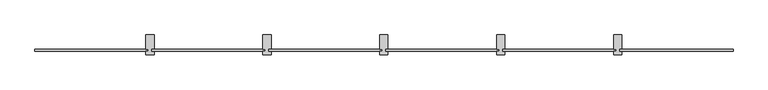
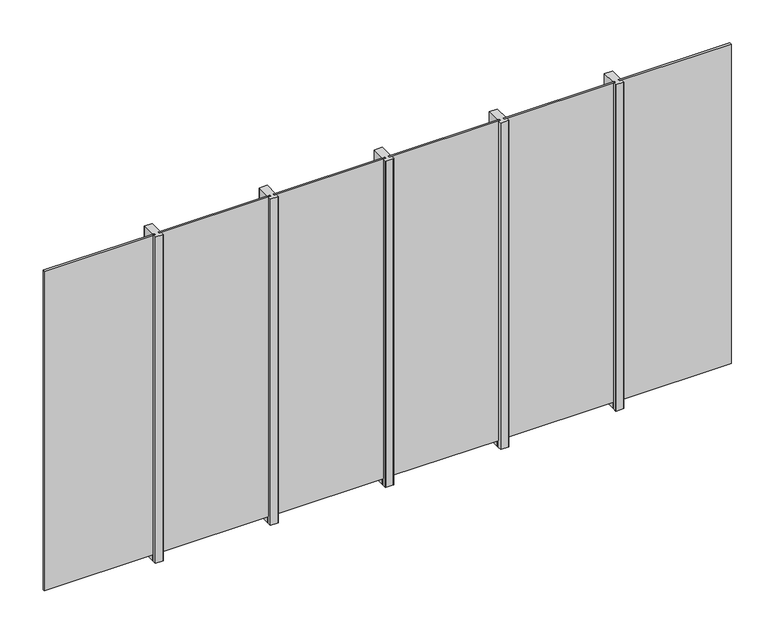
"""IFC4 building model written with IfcOpenShell, lengths in millimetres: railing geometry, TOP STEEL CHANNEL WELD_TOP MOUNT STRUC_GLASS_8'."""

from ifc_helpers import new_model, si_unit, point, frame, frame_2d, origin, origin_with_axes, place, context, project, spatial, polyline, circle_curve, trimmed, segment, composite_curve, outline, extrude, source, transform, mapped, element, save


def railing_8d1bc7e0(model_context):
    return source(origin(), model_context, "Body", "SweptSolid", [
        extrude(outline(polyline([(85584.7514492, -69435.5077536), (86372.1514492, -69435.5077536), (86372.1514492, -69448.2077536), (85584.7514492, -69448.2077536), (85584.7514492, -69435.5077536)])), frame((0.0, 0.0, 50.8), z_axis=(0.0, 0.0, 1.0), x_axis=(1.0, 0.0, 0.0)), (0.0, 0.0, 1.0), 2387.6),
        extrude(outline(composite_curve([segment(polyline([(85599.839796, -69435.5077536), (85584.7514492, -69435.5077536), (85584.7514492, -69448.2077536), (85599.839796, -69448.2077536), (85599.839796, -69473.1075966)]), True, "CONTINUOUS"), segment(trimmed(circle_curve(frame_2d((85599.339796, -69473.1075966)), 0.5), [point((85599.839796, -69473.1075966))], [point((85599.339796, -69473.6075966))], False, "CARTESIAN"), True, "CONTINUOUS"), segment(polyline([(85599.339796, -69473.6075966), (85543.189796, -69473.6075966)]), True, "CONTINUOUS"), segment(trimmed(circle_curve(frame_2d((85543.189796, -69473.1075966)), 0.5), [point((85543.189796, -69473.6075966))], [point((85542.689796, -69473.1075966))], False, "CARTESIAN"), True, "CONTINUOUS"), segment(polyline([(85542.689796, -69473.1075966), (85542.689796, -69448.2077536), (85559.3514492, -69448.2077536), (85559.3514492, -69435.5077536), (85542.689796, -69435.5077536), (85542.689796, -69336.4835966)]), True, "CONTINUOUS"), segment(trimmed(circle_curve(frame_2d((85543.189796, -69336.4835966)), 0.5), [point((85542.689796, -69336.4835966))], [point((85543.189796, -69335.9835966))], False, "CARTESIAN"), True, "CONTINUOUS"), segment(polyline([(85543.189796, -69335.9835966), (85599.339796, -69335.9835966)]), True, "CONTINUOUS"), segment(trimmed(circle_curve(frame_2d((85599.339796, -69336.4835966)), 0.5), [point((85599.339796, -69335.9835966))], [point((85599.839796, -69336.4835966))], False, "CARTESIAN"), True, "CONTINUOUS"), segment(polyline([(85599.839796, -69336.4835966), (85599.839796, -69435.5077536)]), True, "CONTINUOUS")], self_intersect=False)), origin_with_axes(), (0.0, 0.0, 1.0), 2438.4),
        extrude(outline(polyline([(84771.9514492, -69435.5077536), (85559.3514492, -69435.5077536), (85559.3514492, -69448.2077536), (84771.9514492, -69448.2077536), (84771.9514492, -69435.5077536)])), frame((0.0, 0.0, 50.8), z_axis=(0.0, 0.0, 1.0), x_axis=(1.0, 0.0, 0.0)), (0.0, 0.0, 1.0), 2387.6),
        extrude(outline(composite_curve([segment(polyline([(84787.039796, -69435.5077536), (84771.9514492, -69435.5077536), (84771.9514492, -69448.2077536), (84787.039796, -69448.2077536), (84787.039796, -69473.1075966)]), True, "CONTINUOUS"), segment(trimmed(circle_curve(frame_2d((84786.539796, -69473.1075966)), 0.5), [point((84787.039796, -69473.1075966))], [point((84786.539796, -69473.6075966))], False, "CARTESIAN"), True, "CONTINUOUS"), segment(polyline([(84786.539796, -69473.6075966), (84730.389796, -69473.6075966)]), True, "CONTINUOUS"), segment(trimmed(circle_curve(frame_2d((84730.389796, -69473.1075966)), 0.5), [point((84730.389796, -69473.6075966))], [point((84729.889796, -69473.1075966))], False, "CARTESIAN"), True, "CONTINUOUS"), segment(polyline([(84729.889796, -69473.1075966), (84729.889796, -69448.2077536), (84746.5514492, -69448.2077536), (84746.5514492, -69435.5077536), (84729.889796, -69435.5077536), (84729.889796, -69336.4835966)]), True, "CONTINUOUS"), segment(trimmed(circle_curve(frame_2d((84730.389796, -69336.4835966)), 0.5), [point((84729.889796, -69336.4835966))], [point((84730.389796, -69335.9835966))], False, "CARTESIAN"), True, "CONTINUOUS"), segment(polyline([(84730.389796, -69335.9835966), (84786.539796, -69335.9835966)]), True, "CONTINUOUS"), segment(trimmed(circle_curve(frame_2d((84786.539796, -69336.4835966)), 0.5), [point((84786.539796, -69335.9835966))], [point((84787.039796, -69336.4835966))], False, "CARTESIAN"), True, "CONTINUOUS"), segment(polyline([(84787.039796, -69336.4835966), (84787.039796, -69435.5077536)]), True, "CONTINUOUS")], self_intersect=False)), origin_with_axes(), (0.0, 0.0, 1.0), 2438.4),
        extrude(outline(polyline([(83959.1514492, -69435.5077536), (84746.5514492, -69435.5077536), (84746.5514492, -69448.2077536), (83959.1514492, -69448.2077536), (83959.1514492, -69435.5077536)])), frame((0.0, 0.0, 50.8), z_axis=(0.0, 0.0, 1.0), x_axis=(1.0, 0.0, 0.0)), (0.0, 0.0, 1.0), 2387.6),
        extrude(outline(composite_curve([segment(polyline([(83974.239796, -69435.5077536), (83959.1514492, -69435.5077536), (83959.1514492, -69448.2077536), (83974.239796, -69448.2077536), (83974.239796, -69473.1075966)]), True, "CONTINUOUS"), segment(trimmed(circle_curve(frame_2d((83973.739796, -69473.1075966)), 0.5), [point((83974.239796, -69473.1075966))], [point((83973.739796, -69473.6075966))], False, "CARTESIAN"), True, "CONTINUOUS"), segment(polyline([(83973.739796, -69473.6075966), (83917.589796, -69473.6075966)]), True, "CONTINUOUS"), segment(trimmed(circle_curve(frame_2d((83917.589796, -69473.1075966)), 0.5), [point((83917.589796, -69473.6075966))], [point((83917.089796, -69473.1075966))], False, "CARTESIAN"), True, "CONTINUOUS"), segment(polyline([(83917.089796, -69473.1075966), (83917.089796, -69448.2077536), (83933.7514492, -69448.2077536), (83933.7514492, -69435.5077536), (83917.089796, -69435.5077536), (83917.089796, -69336.4835966)]), True, "CONTINUOUS"), segment(trimmed(circle_curve(frame_2d((83917.589796, -69336.4835966)), 0.5), [point((83917.089796, -69336.4835966))], [point((83917.589796, -69335.9835966))], False, "CARTESIAN"), True, "CONTINUOUS"), segment(polyline([(83917.589796, -69335.9835966), (83973.739796, -69335.9835966)]), True, "CONTINUOUS"), segment(trimmed(circle_curve(frame_2d((83973.739796, -69336.4835966)), 0.5), [point((83973.739796, -69335.9835966))], [point((83974.239796, -69336.4835966))], False, "CARTESIAN"), True, "CONTINUOUS"), segment(polyline([(83974.239796, -69336.4835966), (83974.239796, -69435.5077536)]), True, "CONTINUOUS")], self_intersect=False)), origin_with_axes(), (0.0, 0.0, 1.0), 2438.4),
        extrude(outline(polyline([(83146.3514492, -69435.5077536), (83933.7514492, -69435.5077536), (83933.7514492, -69448.2077536), (83146.3514492, -69448.2077536), (83146.3514492, -69435.5077536)])), frame((0.0, 0.0, 50.8), z_axis=(0.0, 0.0, 1.0), x_axis=(1.0, 0.0, 0.0)), (0.0, 0.0, 1.0), 2387.6),
        extrude(outline(composite_curve([segment(polyline([(83161.439796, -69435.5077536), (83146.3514492, -69435.5077536), (83146.3514492, -69448.2077536), (83161.439796, -69448.2077536), (83161.439796, -69473.1075966)]), True, "CONTINUOUS"), segment(trimmed(circle_curve(frame_2d((83160.939796, -69473.1075966)), 0.5), [point((83161.439796, -69473.1075966))], [point((83160.939796, -69473.6075966))], False, "CARTESIAN"), True, "CONTINUOUS"), segment(polyline([(83160.939796, -69473.6075966), (83104.789796, -69473.6075966)]), True, "CONTINUOUS"), segment(trimmed(circle_curve(frame_2d((83104.789796, -69473.1075966)), 0.5), [point((83104.789796, -69473.6075966))], [point((83104.289796, -69473.1075966))], False, "CARTESIAN"), True, "CONTINUOUS"), segment(polyline([(83104.289796, -69473.1075966), (83104.289796, -69448.2077536), (83120.9514492, -69448.2077536), (83120.9514492, -69435.5077536), (83104.289796, -69435.5077536), (83104.289796, -69336.4835966)]), True, "CONTINUOUS"), segment(trimmed(circle_curve(frame_2d((83104.789796, -69336.4835966)), 0.5), [point((83104.289796, -69336.4835966))], [point((83104.789796, -69335.9835966))], False, "CARTESIAN"), True, "CONTINUOUS"), segment(polyline([(83104.789796, -69335.9835966), (83160.939796, -69335.9835966)]), True, "CONTINUOUS"), segment(trimmed(circle_curve(frame_2d((83160.939796, -69336.4835966)), 0.5), [point((83160.939796, -69335.9835966))], [point((83161.439796, -69336.4835966))], False, "CARTESIAN"), True, "CONTINUOUS"), segment(polyline([(83161.439796, -69336.4835966), (83161.439796, -69435.5077536)]), True, "CONTINUOUS")], self_intersect=False)), origin_with_axes(), (0.0, 0.0, 1.0), 2438.4),
        extrude(outline(polyline([(82333.5514492, -69435.5077536), (83120.9514492, -69435.5077536), (83120.9514492, -69448.2077536), (82333.5514492, -69448.2077536), (82333.5514492, -69435.5077536)])), frame((0.0, 0.0, 50.8), z_axis=(0.0, 0.0, 1.0), x_axis=(1.0, 0.0, 0.0)), (0.0, 0.0, 1.0), 2387.6),
        extrude(outline(composite_curve([segment(polyline([(82348.639796, -69435.5077536), (82333.5514492, -69435.5077536), (82333.5514492, -69448.2077536), (82348.639796, -69448.2077536), (82348.639796, -69473.1075966)]), True, "CONTINUOUS"), segment(trimmed(circle_curve(frame_2d((82348.139796, -69473.1075966)), 0.5), [point((82348.639796, -69473.1075966))], [point((82348.139796, -69473.6075966))], False, "CARTESIAN"), True, "CONTINUOUS"), segment(polyline([(82348.139796, -69473.6075966), (82291.989796, -69473.6075966)]), True, "CONTINUOUS"), segment(trimmed(circle_curve(frame_2d((82291.989796, -69473.1075966)), 0.5), [point((82291.989796, -69473.6075966))], [point((82291.489796, -69473.1075966))], False, "CARTESIAN"), True, "CONTINUOUS"), segment(polyline([(82291.489796, -69473.1075966), (82291.489796, -69448.2077536), (82308.1514492, -69448.2077536), (82308.1514492, -69435.5077536), (82291.489796, -69435.5077536), (82291.489796, -69336.4835966)]), True, "CONTINUOUS"), segment(trimmed(circle_curve(frame_2d((82291.989796, -69336.4835966)), 0.5), [point((82291.489796, -69336.4835966))], [point((82291.989796, -69335.9835966))], False, "CARTESIAN"), True, "CONTINUOUS"), segment(polyline([(82291.989796, -69335.9835966), (82348.139796, -69335.9835966)]), True, "CONTINUOUS"), segment(trimmed(circle_curve(frame_2d((82348.139796, -69336.4835966)), 0.5), [point((82348.139796, -69335.9835966))], [point((82348.639796, -69336.4835966))], False, "CARTESIAN"), True, "CONTINUOUS"), segment(polyline([(82348.639796, -69336.4835966), (82348.639796, -69435.5077536)]), True, "CONTINUOUS")], self_intersect=False)), origin_with_axes(), (0.0, 0.0, 1.0), 2438.4),
        extrude(outline(polyline([(81520.7514492, -69435.5077536), (82308.1514492, -69435.5077536), (82308.1514492, -69448.2077536), (81520.7514492, -69448.2077536), (81520.7514492, -69435.5077536)])), frame((0.0, 0.0, 50.8), z_axis=(0.0, 0.0, 1.0), x_axis=(1.0, 0.0, 0.0)), (0.0, 0.0, 1.0), 2387.6),
    ])


if __name__ == "__main__":
    model = new_model("IFC4")
    model_context = context("Model", 3, world=origin())
    ifc_project = project(units=[si_unit("LENGTHUNIT", "METRE", prefix="MILLI")], contexts=[model_context])
    site = spatial("IfcSite", under=ifc_project)
    building = spatial("IfcBuilding", under=site)
    placement = place(None, origin())
    railing_shape = railing_8d1bc7e0(model_context)
    element("IfcRailing", 1, ObjectType="TOP STEEL CHANNEL WELD_TOP MOUNT STRUC_GLASS_8'", at=placement, inside=building, context=model_context, shape_type="MappedRepresentation", body=[
        mapped(railing_shape, transform((0.0, 0.0, 0.0), x_axis=(1.0, 0.0, 0.0), y_axis=(0.0, 1.0, 0.0), z_axis=(0.0, 0.0, 1.0))),
    ])
    save(model, "model.ifc")
